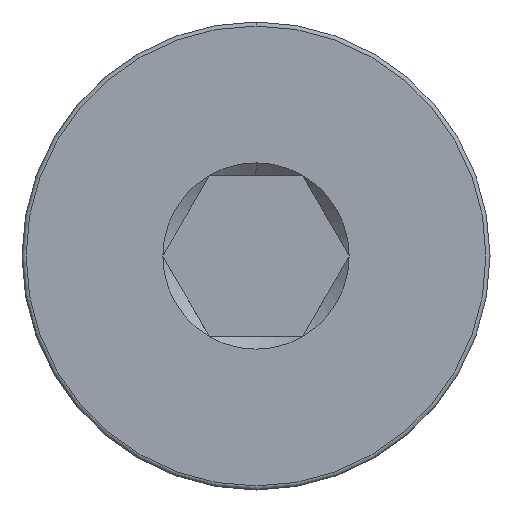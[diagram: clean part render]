
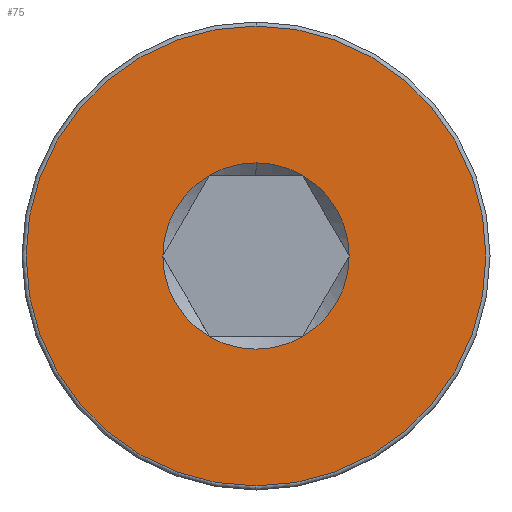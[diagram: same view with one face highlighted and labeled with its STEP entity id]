
A CAD part, left-side view. The second image highlights one B-rep face of the part: STEP entity #75.
In plain terms, the highlighted planar face has unit normal (-1, 0, 0).
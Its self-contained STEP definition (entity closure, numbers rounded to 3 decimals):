
#14 = CIRCLE ( 'NONE', #547, 2.85 ) ;
#15 = CIRCLE ( 'NONE', #186, 1.155 ) ;
#27 = CIRCLE ( 'NONE', #550, 1.155 ) ;
#37 = AXIS2_PLACEMENT_3D ( 'NONE', #499, #746, #78 ) ;
#46 = CARTESIAN_POINT ( 'NONE',  ( 0., 0.577, -1. ) ) ;
#49 = DIRECTION ( 'NONE',  ( -1., 0., 0. ) ) ;
#68 = DIRECTION ( 'NONE',  ( -1., 0., 0. ) ) ;
#73 = DIRECTION ( 'NONE',  ( 0., 0., -1. ) ) ;
#75 = ADVANCED_FACE ( 'NONE', ( #658, #669 ), #667, .T. ) ;
#78 = DIRECTION ( 'NONE',  ( 0., 0., -1. ) ) ;
#89 = CARTESIAN_POINT ( 'NONE',  ( 0., 0., 0. ) ) ;
#107 = VERTEX_POINT ( 'NONE', #180 ) ;
#112 = CARTESIAN_POINT ( 'NONE',  ( 0., 0., 1.155 ) ) ;
#118 = VERTEX_POINT ( 'NONE', #428 ) ;
#122 = DIRECTION ( 'NONE',  ( 0., 0., -1. ) ) ;
#125 = CARTESIAN_POINT ( 'NONE',  ( 0., 0., 0. ) ) ;
#139 = DIRECTION ( 'NONE',  ( 0., 0., -1. ) ) ;
#141 = EDGE_LOOP ( 'NONE', ( #589, #405, #316, #644, #219, #578, #324 ) ) ;
#176 = CARTESIAN_POINT ( 'NONE',  ( 0., 0., 0. ) ) ;
#178 = DIRECTION ( 'NONE',  ( 0., 0., 1. ) ) ;
#180 = CARTESIAN_POINT ( 'NONE',  ( 0., 0., -2.85 ) ) ;
#186 = AXIS2_PLACEMENT_3D ( 'NONE', #196, #684, #73 ) ;
#193 = DIRECTION ( 'NONE',  ( 1., 0., 0. ) ) ;
#196 = CARTESIAN_POINT ( 'NONE',  ( 0., 0., 0. ) ) ;
#207 = DIRECTION ( 'NONE',  ( 1., 0., 0. ) ) ;
#213 = CIRCLE ( 'NONE', #520, 1.155 ) ;
#215 = DIRECTION ( 'NONE',  ( 1., 0., 0. ) ) ;
#219 = ORIENTED_EDGE ( 'NONE', *, *, #488, .T. ) ;
#251 = EDGE_CURVE ( 'NONE', #118, #569, #15, .T. ) ;
#261 = DIRECTION ( 'NONE',  ( 1., 0., 0. ) ) ;
#270 = CIRCLE ( 'NONE', #562, 2.85 ) ;
#274 = AXIS2_PLACEMENT_3D ( 'NONE', #176, #49, #178 ) ;
#278 = EDGE_CURVE ( 'NONE', #576, #118, #213, .T. ) ;
#298 = EDGE_CURVE ( 'NONE', #689, #774, #352, .T. ) ;
#312 = ORIENTED_EDGE ( 'NONE', *, *, #559, .T. ) ;
#316 = ORIENTED_EDGE ( 'NONE', *, *, #453, .T. ) ;
#324 = ORIENTED_EDGE ( 'NONE', *, *, #672, .T. ) ;
#345 = DIRECTION ( 'NONE',  ( 0., 0., 1. ) ) ;
#352 = CIRCLE ( 'NONE', #37, 1.155 ) ;
#355 = EDGE_CURVE ( 'NONE', #513, #698, #461, .T. ) ;
#372 = VERTEX_POINT ( 'NONE', #512 ) ;
#377 = DIRECTION ( 'NONE',  ( 0., 0., 1. ) ) ;
#405 = ORIENTED_EDGE ( 'NONE', *, *, #251, .T. ) ;
#409 = CARTESIAN_POINT ( 'NONE',  ( 0., 1.155, 0. ) ) ;
#428 = CARTESIAN_POINT ( 'NONE',  ( 0., 0.577, 1. ) ) ;
#432 = AXIS2_PLACEMENT_3D ( 'NONE', #611, #261, #679 ) ;
#436 = AXIS2_PLACEMENT_3D ( 'NONE', #528, #605, #122 ) ;
#453 = EDGE_CURVE ( 'NONE', #569, #513, #27, .T. ) ;
#461 = CIRCLE ( 'NONE', #648, 1.155 ) ;
#462 = ORIENTED_EDGE ( 'NONE', *, *, #717, .T. ) ;
#463 = DIRECTION ( 'NONE',  ( 0., 0., -1. ) ) ;
#470 = CARTESIAN_POINT ( 'NONE',  ( 0., 0., 0. ) ) ;
#488 = EDGE_CURVE ( 'NONE', #698, #689, #535, .T. ) ;
#499 = CARTESIAN_POINT ( 'NONE',  ( 0., 0., 0. ) ) ;
#512 = CARTESIAN_POINT ( 'NONE',  ( 0., 0., 2.85 ) ) ;
#513 = VERTEX_POINT ( 'NONE', #542 ) ;
#520 = AXIS2_PLACEMENT_3D ( 'NONE', #560, #193, #139 ) ;
#528 = CARTESIAN_POINT ( 'NONE',  ( 0., 0., 0. ) ) ;
#535 = CIRCLE ( 'NONE', #436, 1.155 ) ;
#542 = CARTESIAN_POINT ( 'NONE',  ( 0., -0.577, 1. ) ) ;
#547 = AXIS2_PLACEMENT_3D ( 'NONE', #470, #657, #345 ) ;
#550 = AXIS2_PLACEMENT_3D ( 'NONE', #755, #215, #463 ) ;
#559 = EDGE_CURVE ( 'NONE', #107, #372, #14, .T. ) ;
#560 = CARTESIAN_POINT ( 'NONE',  ( 0., 0., 0. ) ) ;
#562 = AXIS2_PLACEMENT_3D ( 'NONE', #125, #68, #377 ) ;
#569 = VERTEX_POINT ( 'NONE', #112 ) ;
#574 = CIRCLE ( 'NONE', #432, 1.155 ) ;
#576 = VERTEX_POINT ( 'NONE', #409 ) ;
#578 = ORIENTED_EDGE ( 'NONE', *, *, #298, .T. ) ;
#586 = EDGE_LOOP ( 'NONE', ( #462, #312 ) ) ;
#589 = ORIENTED_EDGE ( 'NONE', *, *, #278, .T. ) ;
#605 = DIRECTION ( 'NONE',  ( 1., 0., 0. ) ) ;
#611 = CARTESIAN_POINT ( 'NONE',  ( 0., 0., 0. ) ) ;
#623 = CARTESIAN_POINT ( 'NONE',  ( 0., -1.155, 0. ) ) ;
#644 = ORIENTED_EDGE ( 'NONE', *, *, #355, .T. ) ;
#648 = AXIS2_PLACEMENT_3D ( 'NONE', #89, #207, #691 ) ;
#657 = DIRECTION ( 'NONE',  ( -1., 0., 0. ) ) ;
#658 = FACE_OUTER_BOUND ( 'NONE', #586, .T. ) ;
#667 = PLANE ( 'NONE',  #274 ) ;
#669 = FACE_BOUND ( 'NONE', #141, .T. ) ;
#672 = EDGE_CURVE ( 'NONE', #774, #576, #574, .T. ) ;
#679 = DIRECTION ( 'NONE',  ( 0., 0., -1. ) ) ;
#684 = DIRECTION ( 'NONE',  ( 1., 0., 0. ) ) ;
#689 = VERTEX_POINT ( 'NONE', #741 ) ;
#691 = DIRECTION ( 'NONE',  ( 0., 0., -1. ) ) ;
#698 = VERTEX_POINT ( 'NONE', #623 ) ;
#717 = EDGE_CURVE ( 'NONE', #372, #107, #270, .T. ) ;
#741 = CARTESIAN_POINT ( 'NONE',  ( 0., -0.577, -1. ) ) ;
#746 = DIRECTION ( 'NONE',  ( 1., 0., 0. ) ) ;
#755 = CARTESIAN_POINT ( 'NONE',  ( 0., 0., 0. ) ) ;
#774 = VERTEX_POINT ( 'NONE', #46 ) ;
